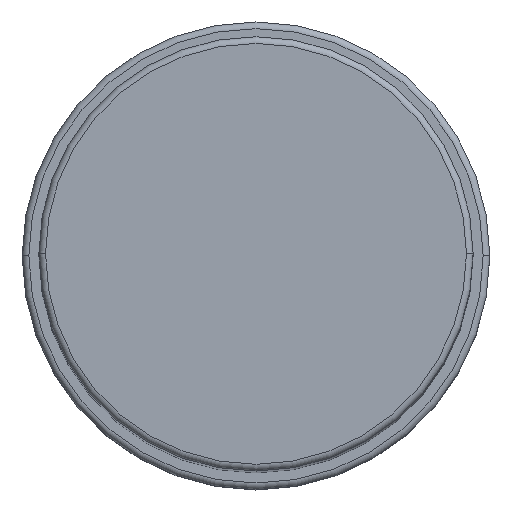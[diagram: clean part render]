
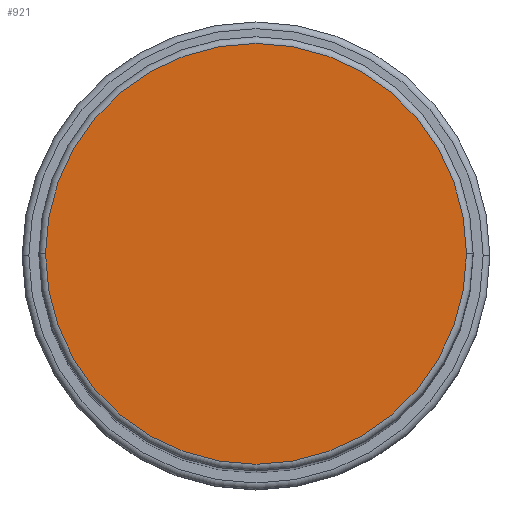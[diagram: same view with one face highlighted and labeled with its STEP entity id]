
A CAD part, top view. The second image highlights one B-rep face of the part: STEP entity #921.
In plain terms, the highlighted planar face has unit normal (0, 0, 1).
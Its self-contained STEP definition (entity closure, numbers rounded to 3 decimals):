
#104 = DIRECTION ( 'NONE',  ( 0., 0., 1. ) ) ;
#130 = CARTESIAN_POINT ( 'NONE',  ( -31.5, 0., 183. ) ) ;
#133 = DIRECTION ( 'NONE',  ( 1., 0., 0. ) ) ;
#263 = EDGE_LOOP ( 'NONE', ( #654, #1324 ) ) ;
#354 = PLANE ( 'NONE',  #656 ) ;
#358 = AXIS2_PLACEMENT_3D ( 'NONE', #1004, #104, #1142 ) ;
#378 = DIRECTION ( 'NONE',  ( 0., 0., 1. ) ) ;
#512 = AXIS2_PLACEMENT_3D ( 'NONE', #661, #767, #133 ) ;
#654 = ORIENTED_EDGE ( 'NONE', *, *, #865, .T. ) ;
#656 = AXIS2_PLACEMENT_3D ( 'NONE', #1372, #378, #1267 ) ;
#661 = CARTESIAN_POINT ( 'NONE',  ( 0., 0., 183. ) ) ;
#757 = CIRCLE ( 'NONE', #358, 31.5 ) ;
#767 = DIRECTION ( 'NONE',  ( 0., 0., 1. ) ) ;
#865 = EDGE_CURVE ( 'NONE', #1606, #1012, #757, .T. ) ;
#921 = ADVANCED_FACE ( 'NONE', ( #1346 ), #354, .T. ) ;
#1004 = CARTESIAN_POINT ( 'NONE',  ( 0., 0., 183. ) ) ;
#1012 = VERTEX_POINT ( 'NONE', #130 ) ;
#1112 = EDGE_CURVE ( 'NONE', #1012, #1606, #1443, .T. ) ;
#1142 = DIRECTION ( 'NONE',  ( 1., 0., 0. ) ) ;
#1267 = DIRECTION ( 'NONE',  ( 1., 0., 0. ) ) ;
#1324 = ORIENTED_EDGE ( 'NONE', *, *, #1112, .T. ) ;
#1346 = FACE_OUTER_BOUND ( 'NONE', #263, .T. ) ;
#1372 = CARTESIAN_POINT ( 'NONE',  ( 0., 0., 183. ) ) ;
#1443 = CIRCLE ( 'NONE', #512, 31.5 ) ;
#1520 = CARTESIAN_POINT ( 'NONE',  ( 31.5, 0., 183. ) ) ;
#1606 = VERTEX_POINT ( 'NONE', #1520 ) ;
